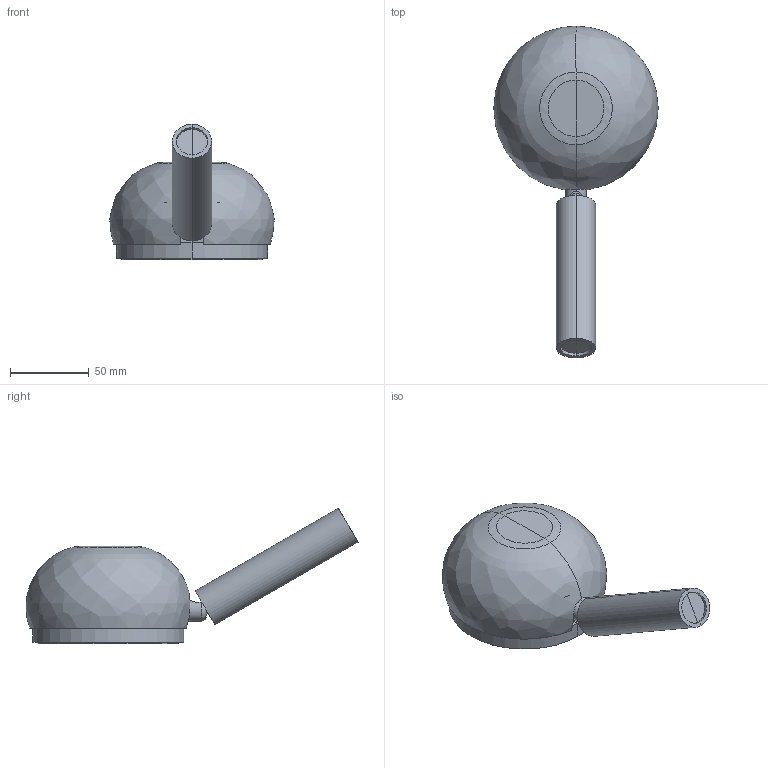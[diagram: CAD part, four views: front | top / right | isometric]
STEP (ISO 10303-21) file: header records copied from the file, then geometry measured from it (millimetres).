
FILE_DESCRIPTION(/* description */ (''),/* implementation_level */ '2;1');
FILE_NAME(/* name */ 'C:\Users\francosartori\Documents\Modelos\01_Digitalizados\0_PRESS\03_Publicación\62352.stp',/* time_stamp */ '2020-06-18T08:49:23+02:00',/* author */ ('FrancoSartori'),/* organization */ (''),/* preprocessor_version */ 'ST-DEVELOPER v18.1',/* originating_system */ 'AutoCAD Mechanical',/* authorisation */ '');
FILE_SCHEMA (('AUTOMOTIVE_DESIGN { 1 0 10303 214 3 1 1 }'));
Length unit declared in the file: millimetre
Products named in the file (2): Product; 6235X_PRESS - PRESS-454783-Export
Assembly tree (1 placements, depth 2):
  Product
    6235X_PRESS - PRESS-454783-Export
Bounding box: 104.45 x 210.89 x 86.18 mm (x, y, z)
Volume: 131552.1 mm3; surface area: 89771.8 mm2
Topology: 6 solids, 6 shells, 93 faces, 184 edges, 101 vertices
Faces by surface type: plane 45, cylinder 36, bspline 10, torus 2
Entity records: 2812 total; most frequent: CARTESIAN_POINT 861, DIRECTION 416, ORIENTED_EDGE 368, EDGE_CURVE 184, AXIS2_PLACEMENT_3D 170, VERTEX_POINT 101, EDGE_LOOP 97, FACE_OUTER_BOUND 93
